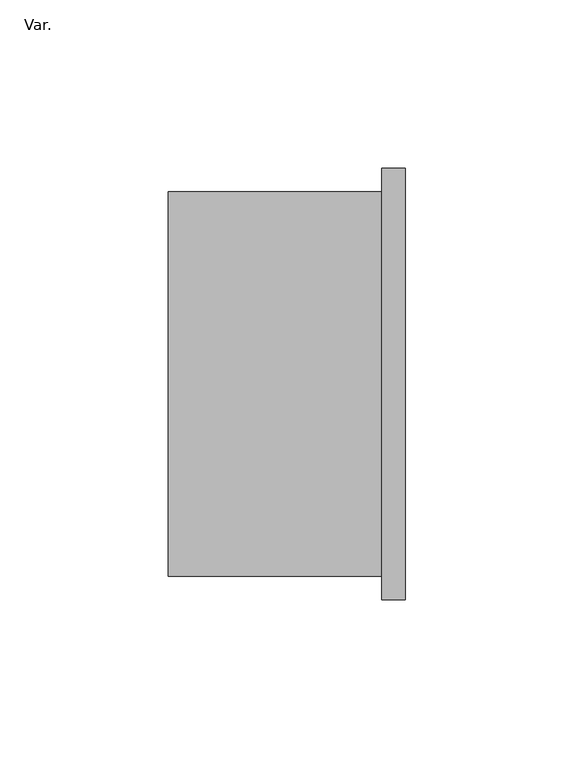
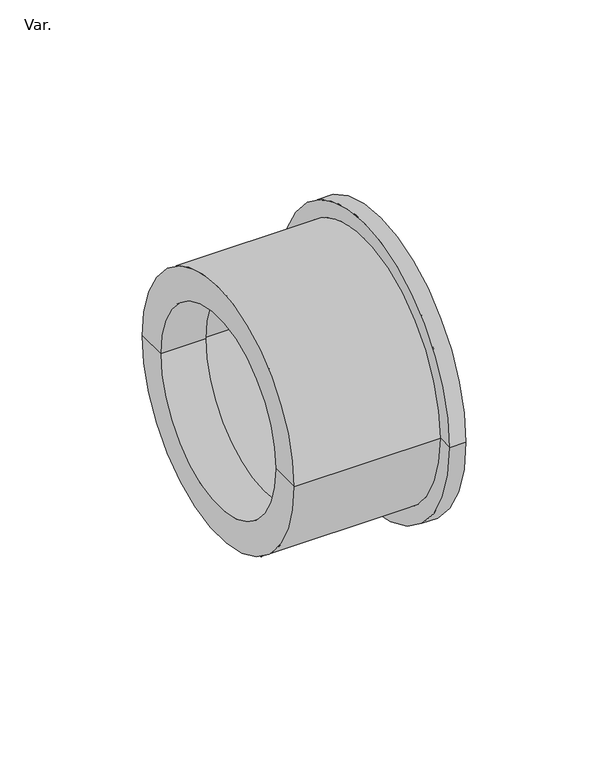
"""IFC4 building model written with IfcOpenShell, lengths in millimetres: pipe fitting geometry, PlastigamaWavin_Unionesdetubería_Cédula40_ReductorBuje : Var.."""

from ifc_helpers import new_model, si_unit, frame, origin, place, context, project, spatial, polyline, circle_curve, source, transform, mapped, element, save
from ifc_brep_helpers import plane_surface, cylinder_surface, revolved_surface, advanced_brep


def var_c3c5f9d4(model_context):
    return source(origin(), model_context, "Body", "AdvancedBrep", [
        advanced_brep(
        [(12.275, -44.45, 0.0), (12.275, 44.45, 0.0), (12.275, 43.45, 0.0), (12.275, -43.45, 0.0), (63.075, -44.45, 0.0), (63.075, 44.45, 0.0), (63.075, -64.15, 0.0), (63.075, 64.15, 0.0), (56.075, -64.15, 0.0), (56.075, 64.15, 0.0), (56.075, -57.15, 0.0), (56.075, 57.15, 0.0), (-7.425, -57.15, 0.0), (-7.425, 57.15, 0.0), (-7.425, -43.45, 0.0), (-7.425, 43.45, 0.0)],
        [
            (0, 1, circle_curve(frame((12.275, 0.0, 0.0), z_axis=(1.0, 0.0, 0.0), x_axis=(0.0, 1.0, 0.0)), 44.45)),
            (1, 2),
            (2, 3, circle_curve(frame((12.275, 0.0, 0.0), z_axis=(-1.0, 0.0, 0.0), x_axis=(0.0, 1.0, 0.0)), 43.45)),
            (3, 0),
            (1, 0, circle_curve(frame((12.275, 0.0, 0.0), z_axis=(1.0, 0.0, 0.0), x_axis=(0.0, 1.0, 0.0)), 44.45)),
            (3, 2, circle_curve(frame((12.275, 0.0, 0.0), z_axis=(-1.0, 0.0, 0.0), x_axis=(0.0, 1.0, 0.0)), 43.45)),
            (4, 5, circle_curve(frame((63.075, 0.0, 0.0), z_axis=(1.0, 0.0, 0.0), x_axis=(0.0, 1.0, 0.0)), 44.45)),
            (5, 1),
            (0, 4),
            (5, 4, circle_curve(frame((63.075, 0.0, 0.0), z_axis=(1.0, 0.0, 0.0), x_axis=(0.0, 1.0, 0.0)), 44.45)),
            (6, 7, circle_curve(frame((63.075, 0.0, 0.0), z_axis=(1.0, 0.0, 0.0), x_axis=(0.0, 1.0, 0.0)), 64.15)),
            (7, 5),
            (4, 6),
            (7, 6, circle_curve(frame((63.075, 0.0, 0.0), z_axis=(1.0, 0.0, 0.0), x_axis=(0.0, 1.0, 0.0)), 64.15)),
            (8, 9, circle_curve(frame((56.075, 0.0, 0.0), z_axis=(1.0, 0.0, 0.0), x_axis=(0.0, 1.0, 0.0)), 64.15)),
            (9, 7),
            (6, 8),
            (9, 8, circle_curve(frame((56.075, 0.0, 0.0), z_axis=(1.0, 0.0, 0.0), x_axis=(0.0, 1.0, 0.0)), 64.15)),
            (10, 11, circle_curve(frame((56.075, 0.0, 0.0), z_axis=(1.0, 0.0, 0.0), x_axis=(0.0, 1.0, 0.0)), 57.15)),
            (11, 9),
            (8, 10),
            (11, 10, circle_curve(frame((56.075, 0.0, 0.0), z_axis=(1.0, 0.0, 0.0), x_axis=(0.0, 1.0, 0.0)), 57.15)),
            (12, 13, circle_curve(frame((-7.425, 0.0, 0.0), z_axis=(1.0, 0.0, 0.0), x_axis=(0.0, 1.0, 0.0)), 57.15)),
            (13, 11),
            (10, 12),
            (13, 12, circle_curve(frame((-7.425, 0.0, 0.0), z_axis=(1.0, 0.0, 0.0), x_axis=(0.0, 1.0, 0.0)), 57.15)),
            (14, 15, circle_curve(frame((-7.425, 0.0, 0.0), z_axis=(1.0, 0.0, 0.0), x_axis=(0.0, 1.0, 0.0)), 43.45)),
            (15, 13),
            (12, 14),
            (15, 14, circle_curve(frame((-7.425, 0.0, 0.0), z_axis=(1.0, 0.0, 0.0), x_axis=(0.0, 1.0, 0.0)), 43.45)),
            (2, 15),
            (14, 3),
        ],
        [
            plane_surface(frame((12.275, 0.0, 0.0), z_axis=(1.0, 0.0, 0.0), x_axis=(0.0, 1.0, 0.0))),
            revolved_surface(polyline([(12.275000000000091, 44.45, 0.0), (63.075000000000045, 44.45, 0.0)]), (1973.075, 0.0, 0.0), (-1.0, 0.0, 0.0)),
            plane_surface(frame((63.075, 0.0, 0.0), z_axis=(1.0, 0.0, 0.0), x_axis=(0.0, 1.0, 0.0))),
            cylinder_surface(frame((1973.075, 0.0, 0.0), z_axis=(-1.0, 0.0, 0.0), x_axis=(0.0, 1.0, 0.0)), 64.15),
            plane_surface(frame((56.075, 0.0, 0.0), z_axis=(-1.0, 0.0, 0.0), x_axis=(0.0, 1.0, 0.0))),
            cylinder_surface(frame((1973.075, 0.0, 0.0), z_axis=(-1.0, 0.0, 0.0), x_axis=(0.0, 1.0, 0.0)), 57.15),
            plane_surface(frame((-7.425, 0.0, 0.0), z_axis=(-1.0, 0.0, 0.0), x_axis=(0.0, 1.0, 0.0))),
            revolved_surface(polyline([(-7.4249999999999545, 43.45, 0.0), (12.275000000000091, 43.45, 0.0)]), (1973.075, 0.0, 0.0), (-1.0, 0.0, 0.0)),
        ],
        [
            (0, [[1, 2, 3, 4]]),
            (0, [[5, -4, 6, -2]]),
            (1, [[7, 8, -1, 9]]),
            (1, [[10, -9, -5, -8]]),
            (2, [[11, 12, -7, 13]]),
            (2, [[14, -13, -10, -12]]),
            (3, [[15, 16, -11, 17]]),
            (3, [[18, -17, -14, -16]]),
            (4, [[19, 20, -15, 21]]),
            (4, [[22, -21, -18, -20]]),
            (5, [[23, 24, -19, 25]]),
            (5, [[26, -25, -22, -24]]),
            (6, [[27, 28, -23, 29]]),
            (6, [[30, -29, -26, -28]]),
            (7, [[-3, 31, -27, 32]]),
            (7, [[-6, -32, -30, -31]]),
        ],
    ),
    ])


if __name__ == "__main__":
    model = new_model("IFC4")
    model_context = context("Model", 3, world=origin())
    ifc_project = project(units=[si_unit("LENGTHUNIT", "METRE", prefix="MILLI")], contexts=[model_context])
    site = spatial("IfcSite", under=ifc_project)
    building = spatial("IfcBuilding", under=site)
    placement = place(None, origin())
    var_shape = var_c3c5f9d4(model_context)
    element("IfcPipeFitting", 1, ObjectType="PlastigamaWavin_Unionesdetubería_Cédula40_ReductorBuje : Var.", at=placement, inside=building, context=model_context, shape_type="MappedRepresentation", body=[
        mapped(var_shape, transform((0.0, 0.0, 0.0), x_axis=(1.0, 0.0, 0.0), y_axis=(0.0, 1.0, 0.0), z_axis=(0.0, 0.0, 1.0))),
    ])
    save(model, "model.ifc")
